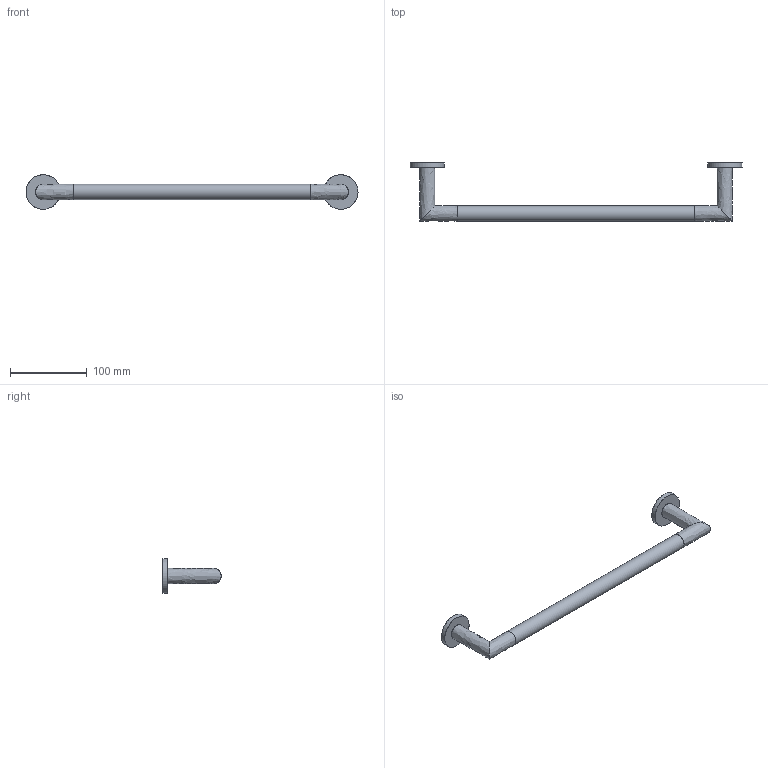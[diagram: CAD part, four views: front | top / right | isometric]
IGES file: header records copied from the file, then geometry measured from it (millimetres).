
Global section: file name: /Users/f/Desktop/I'/AE211.igs; native system: Rhinoceros ( Jul 22 2010 ); preprocessor: Trout Lake IGES 012 Jul 22 2010; date: 100727.150004; units: millimetre
Bounding box: 433 x 76 x 45 mm (x, y, z)
Surface area: 40656.2 mm2 (no closed solid volume)
Topology: 0 solids, 0 shells, 13 faces, 209 edges, 204 vertices
Faces by surface type: bspline 13
